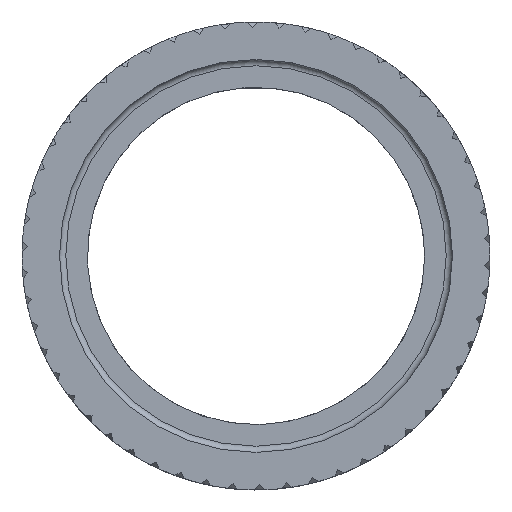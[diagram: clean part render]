
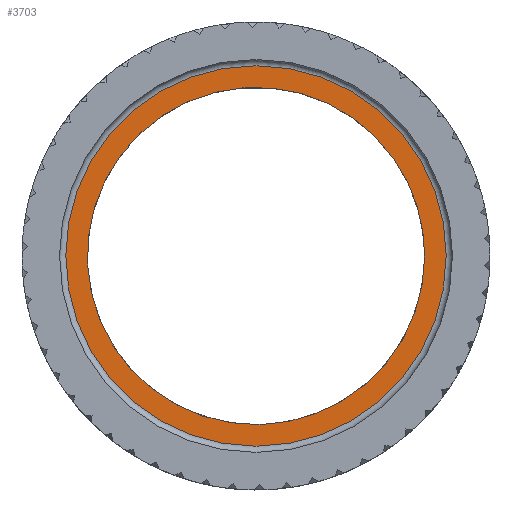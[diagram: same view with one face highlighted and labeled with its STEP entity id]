
A CAD part, top view. The second image highlights one B-rep face of the part: STEP entity #3703.
In plain terms, the highlighted planar face has unit normal (0, 0, 1).
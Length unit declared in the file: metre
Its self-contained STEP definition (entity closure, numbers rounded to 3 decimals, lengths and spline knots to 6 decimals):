
#395=PLANE('',#3939);
#477=CIRCLE('',#3940,0.03045);
#478=CIRCLE('',#3941,0.027);
#632=ORIENTED_EDGE('',*,*,#1902,.T.);
#633=ORIENTED_EDGE('',*,*,#1903,.T.);
#1902=EDGE_CURVE('',#2537,#2537,#477,.F.);
#1903=EDGE_CURVE('',#2538,#2538,#478,.T.);
#2537=VERTEX_POINT('',#4818);
#2538=VERTEX_POINT('',#4820);
#3240=EDGE_LOOP('',(#632));
#3241=EDGE_LOOP('',(#633));
#3471=FACE_BOUND('',#3240,.T.);
#3472=FACE_BOUND('',#3241,.T.);
#3703=ADVANCED_FACE('',(#3471,#3472),#395,.F.);
#3939=AXIS2_PLACEMENT_3D('',#4816,#4151,#4152);
#3940=AXIS2_PLACEMENT_3D('',#4817,#4153,#4154);
#3941=AXIS2_PLACEMENT_3D('',#4819,#4155,#4156);
#4151=DIRECTION('',(0.,0.,-1.));
#4152=DIRECTION('',(0.819,0.574,0.));
#4153=DIRECTION('',(0.,0.,-1.));
#4154=DIRECTION('',(1.,0.,0.));
#4155=DIRECTION('',(0.,0.,-1.));
#4156=DIRECTION('',(1.,0.,0.));
#4816=CARTESIAN_POINT('',(0.,0.,0.0738));
#4817=CARTESIAN_POINT('',(0.,0.,0.0738));
#4818=CARTESIAN_POINT('',(0.03045,0.,0.0738));
#4819=CARTESIAN_POINT('',(0.,0.,0.0738));
#4820=CARTESIAN_POINT('',(0.027,0.,0.0738));
